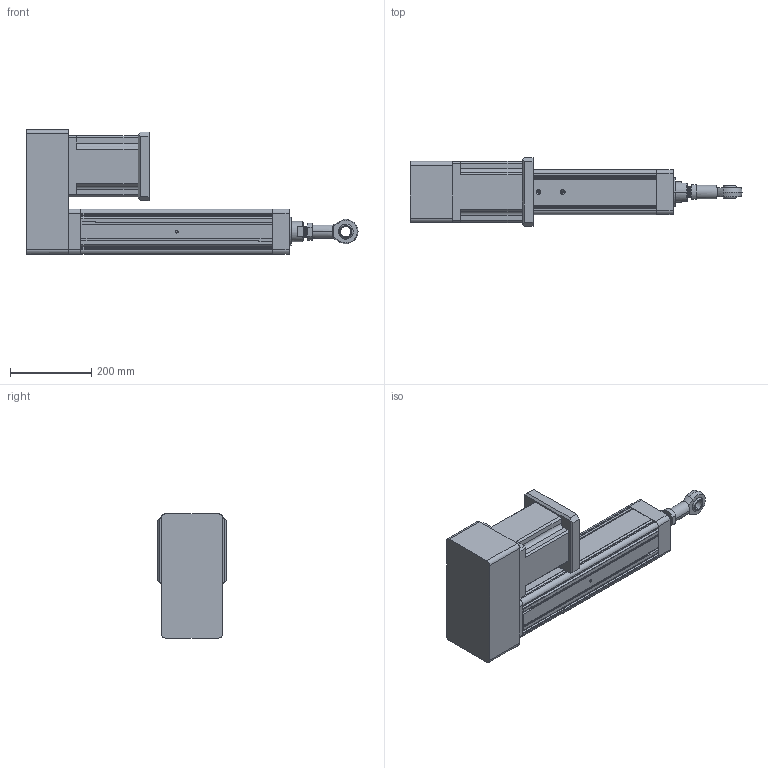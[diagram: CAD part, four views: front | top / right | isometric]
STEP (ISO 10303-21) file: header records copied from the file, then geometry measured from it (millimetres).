
FILE_DESCRIPTION (( 'STEP AP203' ), '1' );
FILE_NAME ('YRJ110-L300-H1K3.STEP', '2020-01-04T05:54:14', ( 'User' ), ( 'China' ), 'SwSTEP 2.0', 'SolidWorks 2016', '' );
FILE_SCHEMA (( 'CONFIG_CONTROL_DESIGN' ));
Length unit declared in the file: millimetre
Products named in the file (11): H1-110-1; _BNC01-SI25T_K-R-001; H1-110-2; _BNC01-SI25T_K-R-002; BNC01-SI25T_K-R; K3-110; YRJ110-L300-H1K3; 萇儂碟-110; 142熬厒儂; 095-100俴最倰第; K1-110
Assembly tree (10 placements, depth 4):
  YRJ110-L300-H1K3
    095-100俴最倰第
    H1-110-1
    H1-110-2
    萇儂碟-110
    142熬厒儂
    K3-110
      K1-110
      BNC01-SI25T_K-R
        _BNC01-SI25T_K-R-001
        _BNC01-SI25T_K-R-002
Bounding box: 815 x 168 x 305.5 mm (x, y, z)
Volume: 11878825.2 mm3; surface area: 925699.1 mm2
Topology: 8 solids, 8 shells, 401 faces, 1105 edges, 705 vertices
Faces by surface type: plane 175, cylinder 170, cone 42, bspline 14
Entity records: 22805 total; most frequent: CARTESIAN_POINT 11707, ORIENTED_EDGE 2138, DIRECTION 2004, EDGE_CURVE 1069, VERTEX_POINT 705, AXIS2_PLACEMENT_3D 682, VECTOR 640, LINE 640
